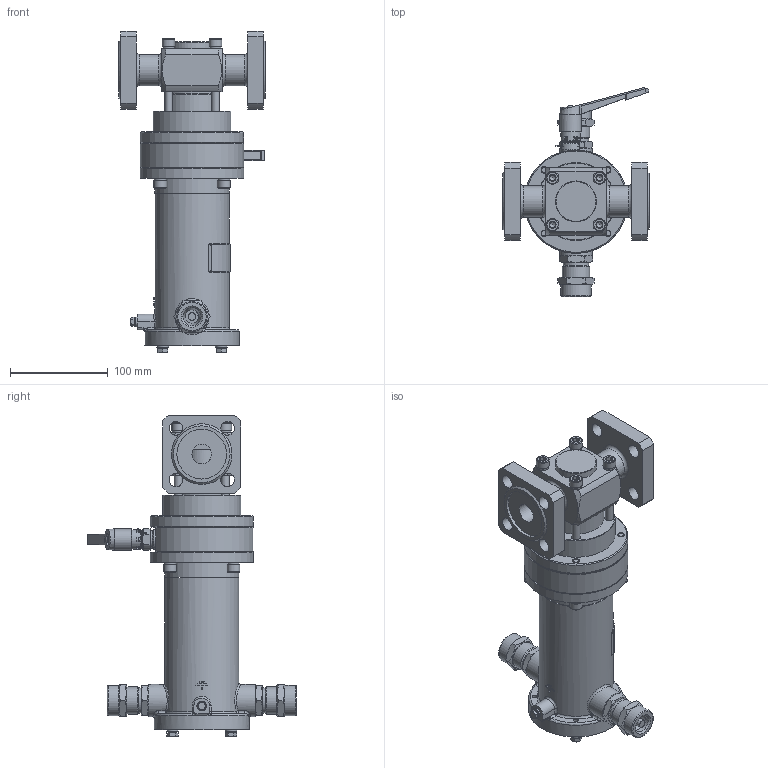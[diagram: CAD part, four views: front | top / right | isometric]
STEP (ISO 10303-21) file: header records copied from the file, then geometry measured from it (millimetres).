
FILE_DESCRIPTION(('STEP AP203'), '1');
FILE_NAME('捇迕-珅 DN20PN25', '', ('UNSPECIFIED'), ('UNSPECIFIED'), 'C3D Converter', 'C3D Toolkit', '');
FILE_SCHEMA(('CONFIG_CONTROL_DESIGN'));
Length unit declared in the file: millimetre
Bounding box: 150 x 214 x 329.7 mm (x, y, z)
Volume: 1258398.9 mm3; surface area: 322900.9 mm2
Topology: 6 solids, 21 shells, 2718 faces, 7305 edges, 4764 vertices
Faces by surface type: plane 1228, cylinder 1111, cone 195, extrusion 108, torus 38, bspline 36, sphere 2
Full cylindrical faces by diameter (mm): 1 x2, 2.459 x1, 3 x1, 3.1 x1, 3.5 x2, 4 x1, 4.134 x1, 4.3 x1, 4.5 x1, 4.917 x6, 5 x2, 6 x16, 6.3 x1, 6.5 x4, 6.647 x4, 7 x1, 8 x13, 8.5 x4, 9 x9, 10 x2, 11 x1, 12 x6, 12.5 x1, 13 x10, 13.8 x1, 14 x9, 15 x1, 16 x1, 17 x1, 17.8 x1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
Entity records: 123241 total; most frequent: CARTESIAN_POINT 33749, DIRECTION 14209, ORIENTED_EDGE 13840, EDGE_CURVE 6920, AXIS2_PLACEMENT_3D 5264, VERTEX_POINT 4745, VECTOR 3681, LINE 3573
